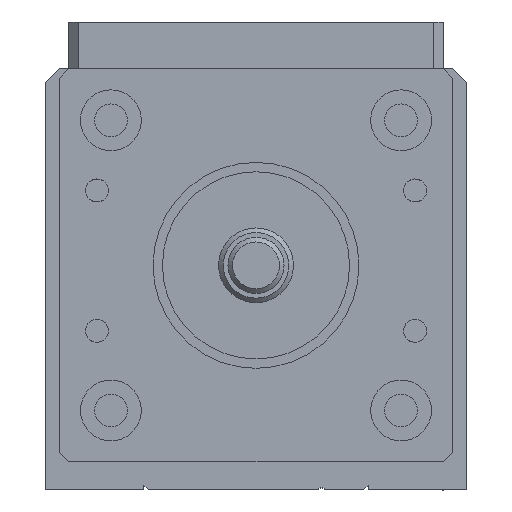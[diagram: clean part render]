
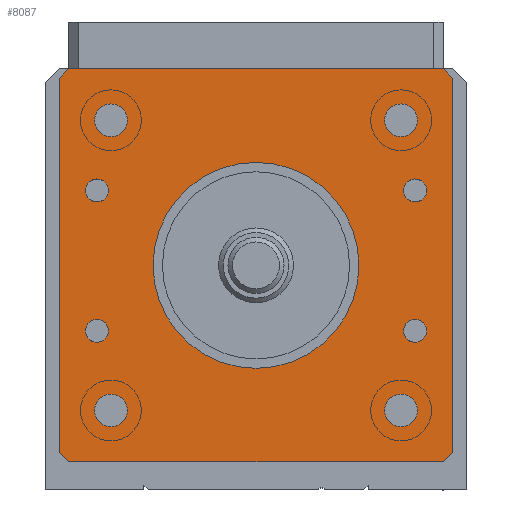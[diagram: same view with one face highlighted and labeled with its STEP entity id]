
A CAD part, left-side view. The second image highlights one B-rep face of the part: STEP entity #8087.
In plain terms, the highlighted planar face has unit normal (-1, 0, 0).
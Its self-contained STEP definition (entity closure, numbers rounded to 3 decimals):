
#7175=CARTESIAN_POINT('',(-6.,15.5,10.25));
#7176=VERTEX_POINT('',#7175);
#7177=CARTESIAN_POINT('',(-6.,15.5,8.5));
#7178=DIRECTION('',(1.0,0.0,0.0));
#7179=DIRECTION('',(0.0,0.0,-1.0));
#7180=AXIS2_PLACEMENT_3D('',#7177,#7178,#7179);
#7181=CIRCLE('',#7180,1.75);
#7182=EDGE_CURVE('',#7176,#7176,#7181,.T.);
#7285=CARTESIAN_POINT('',(-6.,-15.5,41.25));
#7286=VERTEX_POINT('',#7285);
#7287=CARTESIAN_POINT('',(-6.,-15.5,39.5));
#7288=DIRECTION('',(1.0,0.0,0.0));
#7289=DIRECTION('',(0.0,0.0,-1.0));
#7290=AXIS2_PLACEMENT_3D('',#7287,#7288,#7289);
#7291=CIRCLE('',#7290,1.75);
#7292=EDGE_CURVE('',#7286,#7286,#7291,.T.);
#7395=CARTESIAN_POINT('',(-6.,15.5,41.25));
#7396=VERTEX_POINT('',#7395);
#7397=CARTESIAN_POINT('',(-6.,15.5,39.5));
#7398=DIRECTION('',(1.0,0.0,0.0));
#7399=DIRECTION('',(0.0,0.0,-1.0));
#7400=AXIS2_PLACEMENT_3D('',#7397,#7398,#7399);
#7401=CIRCLE('',#7400,1.75);
#7402=EDGE_CURVE('',#7396,#7396,#7401,.T.);
#7505=CARTESIAN_POINT('',(-6.,-15.5,10.25));
#7506=VERTEX_POINT('',#7505);
#7507=CARTESIAN_POINT('',(-6.,-15.5,8.5));
#7508=DIRECTION('',(1.0,0.0,0.0));
#7509=DIRECTION('',(0.0,0.0,-1.0));
#7510=AXIS2_PLACEMENT_3D('',#7507,#7508,#7509);
#7511=CIRCLE('',#7510,1.75);
#7512=EDGE_CURVE('',#7506,#7506,#7511,.T.);
#7528=CARTESIAN_POINT('',(-6.,-15.771,17.));
#7529=VERTEX_POINT('',#7528);
#7530=CARTESIAN_POINT('',(-6.,-17.,17.));
#7531=DIRECTION('',(1.0,0.0,0.0));
#7532=DIRECTION('',(0.0,1.0,0.0));
#7533=AXIS2_PLACEMENT_3D('',#7530,#7531,#7532);
#7534=CIRCLE('',#7533,1.23);
#7535=EDGE_CURVE('',#7529,#7529,#7534,.T.);
#7548=CARTESIAN_POINT('',(-6.,18.23,32.));
#7549=VERTEX_POINT('',#7548);
#7550=CARTESIAN_POINT('',(-6.,17.0,32.));
#7551=DIRECTION('',(1.0,0.0,0.0));
#7552=DIRECTION('',(0.0,1.0,0.0));
#7553=AXIS2_PLACEMENT_3D('',#7550,#7551,#7552);
#7554=CIRCLE('',#7553,1.23);
#7555=EDGE_CURVE('',#7549,#7549,#7554,.T.);
#7568=CARTESIAN_POINT('',(-6.,18.23,17.));
#7569=VERTEX_POINT('',#7568);
#7570=CARTESIAN_POINT('',(-6.,17.,17.));
#7571=DIRECTION('',(1.0,0.0,0.0));
#7572=DIRECTION('',(0.0,1.0,0.0));
#7573=AXIS2_PLACEMENT_3D('',#7570,#7571,#7572);
#7574=CIRCLE('',#7573,1.23);
#7575=EDGE_CURVE('',#7569,#7569,#7574,.T.);
#7588=CARTESIAN_POINT('',(-6.,-15.771,32.));
#7589=VERTEX_POINT('',#7588);
#7590=CARTESIAN_POINT('',(-6.,-17.,32.));
#7591=DIRECTION('',(1.0,0.0,0.0));
#7592=DIRECTION('',(0.0,1.0,0.0));
#7593=AXIS2_PLACEMENT_3D('',#7590,#7591,#7592);
#7594=CIRCLE('',#7593,1.23);
#7595=EDGE_CURVE('',#7589,#7589,#7594,.T.);
#7616=CARTESIAN_POINT('',(-6.,11.0,24.));
#7617=VERTEX_POINT('',#7616);
#7618=CARTESIAN_POINT('',(-6.,0.0,24.));
#7619=DIRECTION('',(1.0,0.0,0.0));
#7620=DIRECTION('',(0.0,-1.0,0.0));
#7621=AXIS2_PLACEMENT_3D('',#7618,#7619,#7620);
#7622=CIRCLE('',#7621,11.0);
#7623=EDGE_CURVE('',#7617,#7617,#7622,.T.);
#7683=CARTESIAN_POINT('',(-6.,21.,44.));
#7684=VERTEX_POINT('',#7683);
#7691=CARTESIAN_POINT('',(-6.,20.0,45.));
#7692=VERTEX_POINT('',#7691);
#7693=CARTESIAN_POINT('',(-6.,20.0,45.));
#7694=DIRECTION('',(0.0,0.707,-0.707));
#7695=VECTOR('',#7694,1.414);
#7696=LINE('',#7693,#7695);
#7697=EDGE_CURVE('',#7692,#7684,#7696,.T.);
#7721=CARTESIAN_POINT('',(-6.,21.,4.));
#7722=VERTEX_POINT('',#7721);
#7729=CARTESIAN_POINT('',(-6.,21.,44.));
#7730=DIRECTION('',(0.0,0.0,-1.0));
#7731=VECTOR('',#7730,40.0);
#7732=LINE('',#7729,#7731);
#7733=EDGE_CURVE('',#7684,#7722,#7732,.T.);
#7752=CARTESIAN_POINT('',(-6.,20.,3.));
#7753=VERTEX_POINT('',#7752);
#7760=CARTESIAN_POINT('',(-6.,21.,4.));
#7761=DIRECTION('',(0.0,-0.707,-0.707));
#7762=VECTOR('',#7761,1.414);
#7763=LINE('',#7760,#7762);
#7764=EDGE_CURVE('',#7722,#7753,#7763,.T.);
#7797=CARTESIAN_POINT('',(-6.,-20.0,3.));
#7798=VERTEX_POINT('',#7797);
#7805=CARTESIAN_POINT('',(-6.,20.,3.));
#7806=DIRECTION('',(0.0,-1.0,0.0));
#7807=VECTOR('',#7806,40.);
#7808=LINE('',#7805,#7807);
#7809=EDGE_CURVE('',#7753,#7798,#7808,.T.);
#7828=CARTESIAN_POINT('',(-6.,-21.,4.));
#7829=VERTEX_POINT('',#7828);
#7836=CARTESIAN_POINT('',(-6.,-20.0,3.));
#7837=DIRECTION('',(0.0,-0.707,0.707));
#7838=VECTOR('',#7837,1.414);
#7839=LINE('',#7836,#7838);
#7840=EDGE_CURVE('',#7798,#7829,#7839,.T.);
#7859=CARTESIAN_POINT('',(-6.,-21.,44.0));
#7860=VERTEX_POINT('',#7859);
#7867=CARTESIAN_POINT('',(-6.,-21.,4.));
#7868=DIRECTION('',(0.0,0.0,1.0));
#7869=VECTOR('',#7868,40.0);
#7870=LINE('',#7867,#7869);
#7871=EDGE_CURVE('',#7829,#7860,#7870,.T.);
#7890=CARTESIAN_POINT('',(-6.,-20.,45.0));
#7891=VERTEX_POINT('',#7890);
#7898=CARTESIAN_POINT('',(-6.,-21.,44.0));
#7899=DIRECTION('',(0.0,0.707,0.707));
#7900=VECTOR('',#7899,1.414);
#7901=LINE('',#7898,#7900);
#7902=EDGE_CURVE('',#7860,#7891,#7901,.T.);
#8040=CARTESIAN_POINT('',(-6.,0.,24.));
#8041=DIRECTION('',(1.0,0.0,0.0));
#8042=DIRECTION('',(0.0,0.0,-1.0));
#8043=AXIS2_PLACEMENT_3D('',#8040,#8041,#8042);
#8044=PLANE('',#8043);
#8045=ORIENTED_EDGE('',*,*,#7902,.T.);
#8046=CARTESIAN_POINT('',(-6.,-20.,45.0));
#8047=DIRECTION('',(0.0,1.0,0.0));
#8048=VECTOR('',#8047,40.);
#8049=LINE('',#8046,#8048);
#8050=EDGE_CURVE('',#7891,#7692,#8049,.T.);
#8051=ORIENTED_EDGE('',*,*,#8050,.T.);
#8052=ORIENTED_EDGE('',*,*,#7697,.T.);
#8053=ORIENTED_EDGE('',*,*,#7733,.T.);
#8054=ORIENTED_EDGE('',*,*,#7764,.T.);
#8055=ORIENTED_EDGE('',*,*,#7809,.T.);
#8056=ORIENTED_EDGE('',*,*,#7840,.T.);
#8057=ORIENTED_EDGE('',*,*,#7871,.T.);
#8058=EDGE_LOOP('',(#8045,#8051,#8052,#8053,#8054,#8055,#8056,#8057));
#8059=FACE_OUTER_BOUND('',#8058,.T.);
#8060=ORIENTED_EDGE('',*,*,#7182,.T.);
#8061=EDGE_LOOP('',(#8060));
#8062=FACE_BOUND('',#8061,.T.);
#8063=ORIENTED_EDGE('',*,*,#7292,.T.);
#8064=EDGE_LOOP('',(#8063));
#8065=FACE_BOUND('',#8064,.T.);
#8066=ORIENTED_EDGE('',*,*,#7402,.T.);
#8067=EDGE_LOOP('',(#8066));
#8068=FACE_BOUND('',#8067,.T.);
#8069=ORIENTED_EDGE('',*,*,#7512,.T.);
#8070=EDGE_LOOP('',(#8069));
#8071=FACE_BOUND('',#8070,.T.);
#8072=ORIENTED_EDGE('',*,*,#7535,.T.);
#8073=EDGE_LOOP('',(#8072));
#8074=FACE_BOUND('',#8073,.T.);
#8075=ORIENTED_EDGE('',*,*,#7555,.T.);
#8076=EDGE_LOOP('',(#8075));
#8077=FACE_BOUND('',#8076,.T.);
#8078=ORIENTED_EDGE('',*,*,#7575,.T.);
#8079=EDGE_LOOP('',(#8078));
#8080=FACE_BOUND('',#8079,.T.);
#8081=ORIENTED_EDGE('',*,*,#7595,.T.);
#8082=EDGE_LOOP('',(#8081));
#8083=FACE_BOUND('',#8082,.T.);
#8084=ORIENTED_EDGE('',*,*,#7623,.T.);
#8085=EDGE_LOOP('',(#8084));
#8086=FACE_BOUND('',#8085,.T.);
#8087=ADVANCED_FACE('',(#8059,#8062,#8065,#8068,#8071,#8074,#8077,#8080,#8083,#8086),#8044,.F.);
